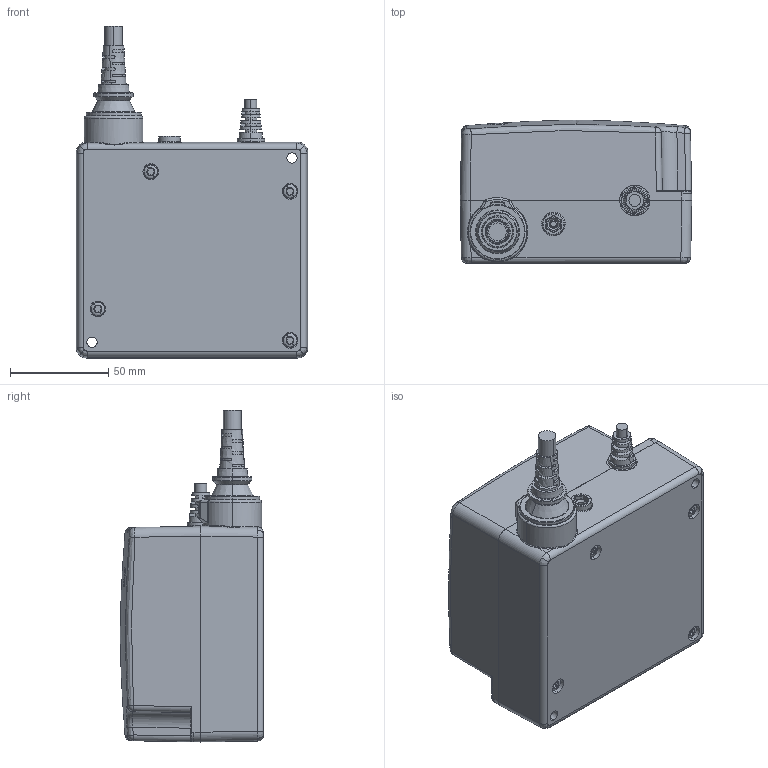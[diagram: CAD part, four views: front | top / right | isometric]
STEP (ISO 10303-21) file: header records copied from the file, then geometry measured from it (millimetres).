
FILE_DESCRIPTION (( 'STEP AP203' ), '1' );
FILE_NAME ('TP4.STEP', '2014-09-16T10:02:29', ( '' ), ( '' ), 'SwSTEP 2.0', 'SolidWorks 2010', '' );
FILE_SCHEMA (( 'CONFIG_CONTROL_DESIGN' ));
Length unit declared in the file: millimetre
Products named in the file (1): TP4
Bounding box: 118 x 73 x 169.3 mm (x, y, z)
Volume: 913418.7 mm3; surface area: 92078.7 mm2
Topology: 8 solids, 8 shells, 491 faces, 1227 edges, 773 vertices
Faces by surface type: plane 190, cylinder 177, bspline 51, torus 41, cone 26, sphere 6
Entity records: 22030 total; most frequent: CARTESIAN_POINT 10449, ORIENTED_EDGE 2442, DIRECTION 2384, EDGE_CURVE 1221, AXIS2_PLACEMENT_3D 930, VERTEX_POINT 773, EDGE_LOOP 536, VECTOR 524
